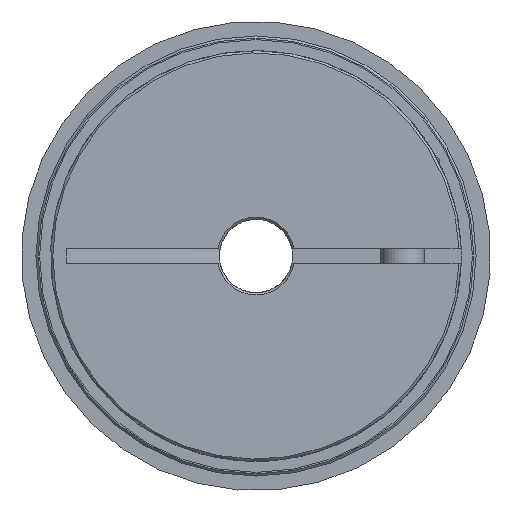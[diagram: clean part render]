
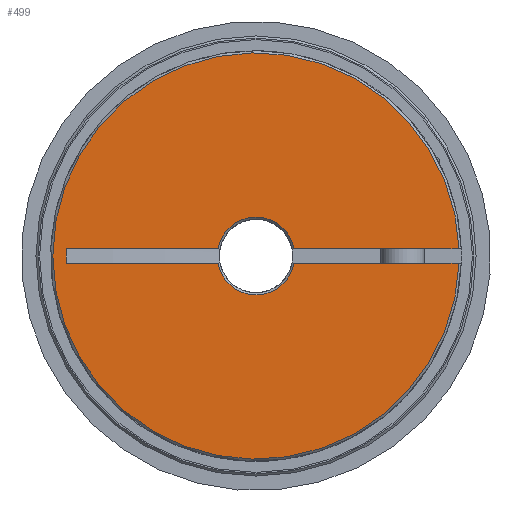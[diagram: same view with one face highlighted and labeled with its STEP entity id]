
A CAD part, left-side view. The second image highlights one B-rep face of the part: STEP entity #499.
In plain terms, the highlighted planar face has unit normal (-1, 0, 0) as drawn and (0, 0, 1) by its records, which use the part's own axes.
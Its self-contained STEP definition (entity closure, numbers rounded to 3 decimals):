
#499 = ADVANCED_FACE( 'NONE', ( #1048 ), #1049, .T. );
#1048 = FACE_OUTER_BOUND( '', #1847, .T. );
#1049 = PLANE( '', #1848 );
#1847 = EDGE_LOOP( '', ( #2716, #2717, #2718, #2719, #2720, #2721, #2722, #2723 ) );
#1848 = AXIS2_PLACEMENT_3D( '', #2724, #2725, #2726 );
#2716 = ORIENTED_EDGE( '', *, *, #4080, .F. );
#2717 = ORIENTED_EDGE( '', *, *, #4081, .T. );
#2718 = ORIENTED_EDGE( '', *, *, #4082, .T. );
#2719 = ORIENTED_EDGE( '', *, *, #4083, .T. );
#2720 = ORIENTED_EDGE( '', *, *, #4084, .T. );
#2721 = ORIENTED_EDGE( '', *, *, #4085, .F. );
#2722 = ORIENTED_EDGE( '', *, *, #4086, .F. );
#2723 = ORIENTED_EDGE( '', *, *, #4087, .T. );
#2724 = CARTESIAN_POINT( '', ( 0., 0., 24.5 ) );
#2725 = DIRECTION( '', ( 0., 0., 1. ) );
#2726 = DIRECTION( '', ( 1., 0., 0. ) );
#4080 = EDGE_CURVE( 'NONE', #4681, #4682, #4683, .F. );
#4081 = EDGE_CURVE( 'NONE', #4681, #4684, #4685, .T. );
#4082 = EDGE_CURVE( 'NONE', #4684, #4686, #4687, .T. );
#4083 = EDGE_CURVE( 'NONE', #4686, #4688, #4689, .F. );
#4084 = EDGE_CURVE( 'NONE', #4688, #4690, #4691, .T. );
#4085 = EDGE_CURVE( 'NONE', #4692, #4690, #4693, .F. );
#4086 = EDGE_CURVE( 'NONE', #4694, #4692, #4695, .F. );
#4087 = EDGE_CURVE( 'NONE', #4694, #4682, #4696, .F. );
#4681 = VERTEX_POINT( 'NONE', #5613 );
#4682 = VERTEX_POINT( 'NONE', #5614 );
#4683 = LINE( '', #5615, #5616 );
#4684 = VERTEX_POINT( 'NONE', #5617 );
#4685 = CIRCLE( '', #5618, 27.7 );
#4686 = VERTEX_POINT( 'NONE', #5619 );
#4687 = LINE( '', #5620, #5621 );
#4688 = VERTEX_POINT( 'NONE', #5622 );
#4689 = CIRCLE( '', #5623, 5.3 );
#4690 = VERTEX_POINT( 'NONE', #5624 );
#4691 = LINE( '', #5625, #5626 );
#4692 = VERTEX_POINT( 'NONE', #5627 );
#4693 = LINE( '', #5628, #5629 );
#4694 = VERTEX_POINT( 'NONE', #5630 );
#4695 = LINE( '', #5631, #5632 );
#4696 = CIRCLE( '', #5633, 5.3 );
#5613 = CARTESIAN_POINT( '', ( 27.682, 1., 24.5 ) );
#5614 = CARTESIAN_POINT( '', ( 5.205, 1., 24.5 ) );
#5615 = CARTESIAN_POINT( '', ( 17., 1., 24.5 ) );
#5616 = VECTOR( '', #6810, 1000. );
#5617 = CARTESIAN_POINT( '', ( 27.682, -1., 24.5 ) );
#5618 = AXIS2_PLACEMENT_3D( '', #6811, #6812, #6813 );
#5619 = CARTESIAN_POINT( '', ( 5.205, -1., 24.5 ) );
#5620 = CARTESIAN_POINT( '', ( 0., -1., 24.5 ) );
#5621 = VECTOR( '', #6814, 1000. );
#5622 = CARTESIAN_POINT( '', ( -5.205, -1., 24.5 ) );
#5623 = AXIS2_PLACEMENT_3D( '', #6815, #6816, #6817 );
#5624 = CARTESIAN_POINT( '', ( -25.849, -1., 24.5 ) );
#5625 = CARTESIAN_POINT( '', ( 0., -1., 24.5 ) );
#5626 = VECTOR( '', #6818, 1000. );
#5627 = CARTESIAN_POINT( '', ( -25.849, 1., 24.5 ) );
#5628 = CARTESIAN_POINT( '', ( -25.849, -1., 24.5 ) );
#5629 = VECTOR( '', #6819, 1000. );
#5630 = CARTESIAN_POINT( '', ( -5.205, 1., 24.5 ) );
#5631 = CARTESIAN_POINT( '', ( 17., 1., 24.5 ) );
#5632 = VECTOR( '', #6820, 1000. );
#5633 = AXIS2_PLACEMENT_3D( '', #6821, #6822, #6823 );
#6810 = DIRECTION( '', ( 1., 0., 0. ) );
#6811 = CARTESIAN_POINT( '', ( 0., 0., 24.5 ) );
#6812 = DIRECTION( '', ( 0., 0., 1. ) );
#6813 = DIRECTION( '', ( 1., 0., 0. ) );
#6814 = DIRECTION( '', ( -1., 0., 0. ) );
#6815 = CARTESIAN_POINT( '', ( 0., 0., 24.5 ) );
#6816 = DIRECTION( '', ( 0., 0., 1. ) );
#6817 = DIRECTION( '', ( 1., 0., 0. ) );
#6818 = DIRECTION( '', ( -1., 0., 0. ) );
#6819 = DIRECTION( '', ( 0., 1., 0. ) );
#6820 = DIRECTION( '', ( 1., 0., 0. ) );
#6821 = CARTESIAN_POINT( '', ( 0., 0., 24.5 ) );
#6822 = DIRECTION( '', ( 0., 0., 1. ) );
#6823 = DIRECTION( '', ( 1., 0., 0. ) );
